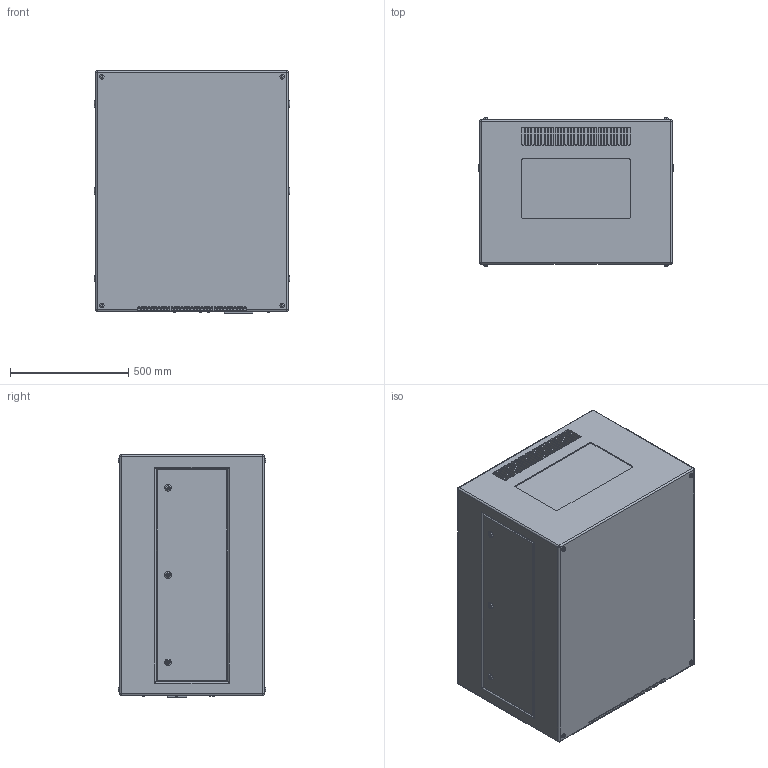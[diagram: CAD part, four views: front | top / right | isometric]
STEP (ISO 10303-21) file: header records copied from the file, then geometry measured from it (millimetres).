
FILE_DESCRIPTION (( 'STEP AP214' ), '1' );
FILE_NAME ('Zen 57.100.L R11.STEP', '2022-09-15T21:12:09', ( '' ), ( '' ), 'SwSTEP 2.0', 'SolidWorks 2020', '' );
FILE_SCHEMA (( 'AUTOMOTIVE_DESIGN' ));
Length unit declared in the file: inch
Products named in the file (1): Zen 57.100.L R11
Bounding box: 825.5 x 624.32 x 1023.62 mm (x, y, z)
Volume: 502005059.3 mm3; surface area: 4175144.6 mm2
Topology: 1 solids, 5 shells, 1098 faces, 2776 edges, 1706 vertices
Faces by surface type: plane 498, cylinder 478, sphere 74, torus 48
Entity records: 36042 total; most frequent: CARTESIAN_POINT 5939, DIRECTION 5824, ORIENTED_EDGE 5404, EDGE_CURVE 2702, AXIS2_PLACEMENT_3D 2103, VERTEX_POINT 1706, VECTOR 1618, LINE 1618
